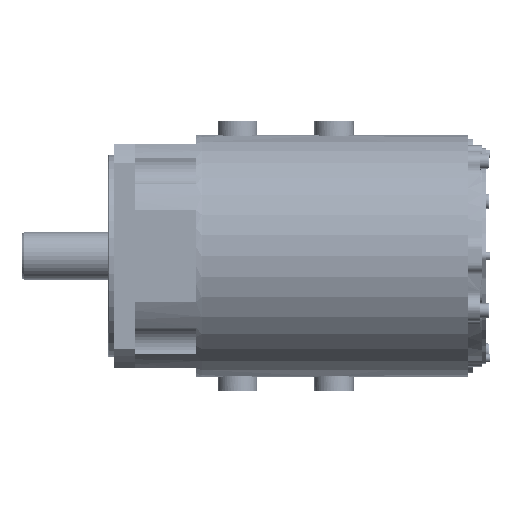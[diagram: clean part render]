
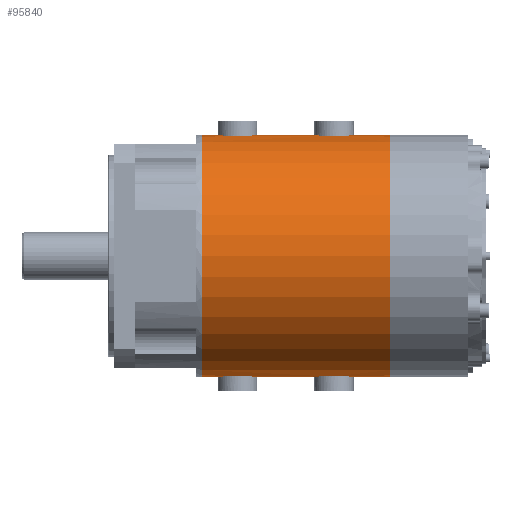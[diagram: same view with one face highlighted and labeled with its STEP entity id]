
A CAD part, front view. The second image highlights one B-rep face of the part: STEP entity #95840.
In plain terms, the highlighted cylindrical face has radius 108 mm (diameter 216 mm), a partial arc.
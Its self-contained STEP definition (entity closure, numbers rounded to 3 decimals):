
#93509=CARTESIAN_POINT('',(120.,0.,108.));
#93510=CARTESIAN_POINT('',(120.,-0.801,108.));
#93511=CARTESIAN_POINT('',(119.817,-2.364,
107.983));
#93512=CARTESIAN_POINT('',(118.944,-4.698,
107.905));
#93513=CARTESIAN_POINT('',(117.552,-6.697,
107.797));
#93514=CARTESIAN_POINT('',(115.777,-8.282,
107.685));
#93515=CARTESIAN_POINT('',(113.577,-9.45,
107.587));
#93516=CARTESIAN_POINT('',(111.175,-10.026,
107.534));
#93517=CARTESIAN_POINT('',(108.819,-10.025,
107.534));
#93518=CARTESIAN_POINT('',(106.42,-9.449,
107.587));
#93519=CARTESIAN_POINT('',(104.216,-8.278,
107.685));
#93520=CARTESIAN_POINT('',(102.436,-6.683,
107.798));
#93521=CARTESIAN_POINT('',(101.054,-4.692,
107.906));
#93522=CARTESIAN_POINT('',(100.183,-2.363,
107.983));
#93523=CARTESIAN_POINT('',(100.,-0.801,108.));
#93524=CARTESIAN_POINT('',(100.,0.,108.));
#93526=CARTESIAN_POINT('',(206.,0.,108.));
#93527=CARTESIAN_POINT('',(206.,-0.801,108.));
#93528=CARTESIAN_POINT('',(205.817,-2.364,
107.983));
#93529=CARTESIAN_POINT('',(204.944,-4.698,
107.905));
#93530=CARTESIAN_POINT('',(203.552,-6.697,
107.797));
#93531=CARTESIAN_POINT('',(201.777,-8.282,
107.685));
#93532=CARTESIAN_POINT('',(199.577,-9.45,
107.587));
#93533=CARTESIAN_POINT('',(197.175,-10.026,
107.534));
#93534=CARTESIAN_POINT('',(194.819,-10.025,
107.534));
#93535=CARTESIAN_POINT('',(192.42,-9.449,
107.587));
#93536=CARTESIAN_POINT('',(190.216,-8.278,
107.685));
#93537=CARTESIAN_POINT('',(188.436,-6.683,
107.798));
#93538=CARTESIAN_POINT('',(187.054,-4.692,
107.906));
#93539=CARTESIAN_POINT('',(186.183,-2.363,
107.983));
#93540=CARTESIAN_POINT('',(186.,-0.801,108.));
#93541=CARTESIAN_POINT('',(186.,0.,108.));
#93543=CARTESIAN_POINT('',(246.,0.,0.));
#93544=DIRECTION('',(1.,0.,0.));
#93545=DIRECTION('',(0.,0.,1.));
#93546=AXIS2_PLACEMENT_3D('',#93543,#93544,#93545);
#93548=DIRECTION('',(-1.,0.,0.));
#93549=VECTOR('',#93548,40.);
#93550=CARTESIAN_POINT('',(246.,0.,-108.));
#93551=LINE('',#93550,#93549);
#93552=CARTESIAN_POINT('',(186.,0.,-108.));
#93553=CARTESIAN_POINT('',(186.,-0.801,-108.));
#93554=CARTESIAN_POINT('',(186.183,-2.363,
-107.983));
#93555=CARTESIAN_POINT('',(187.054,-4.691,
-107.906));
#93556=CARTESIAN_POINT('',(188.436,-6.683,
-107.798));
#93557=CARTESIAN_POINT('',(190.215,-8.277,
-107.685));
#93558=CARTESIAN_POINT('',(192.419,-9.448,
-107.587));
#93559=CARTESIAN_POINT('',(194.818,-10.025,
-107.534));
#93560=CARTESIAN_POINT('',(197.175,-10.026,
-107.534));
#93561=CARTESIAN_POINT('',(199.577,-9.45,
-107.587));
#93562=CARTESIAN_POINT('',(201.777,-8.282,
-107.685));
#93563=CARTESIAN_POINT('',(203.552,-6.697,
-107.797));
#93564=CARTESIAN_POINT('',(204.944,-4.698,
-107.905));
#93565=CARTESIAN_POINT('',(205.817,-2.364,
-107.983));
#93566=CARTESIAN_POINT('',(206.,-0.801,-108.));
#93567=CARTESIAN_POINT('',(206.,0.,-108.));
#93569=DIRECTION('',(-1.,0.,0.));
#93570=VECTOR('',#93569,66.);
#93571=CARTESIAN_POINT('',(186.,0.,-108.));
#93572=LINE('',#93571,#93570);
#93573=CARTESIAN_POINT('',(100.,0.,-108.));
#93574=CARTESIAN_POINT('',(100.,-0.801,-108.));
#93575=CARTESIAN_POINT('',(100.183,-2.363,
-107.983));
#93576=CARTESIAN_POINT('',(101.054,-4.691,
-107.906));
#93577=CARTESIAN_POINT('',(102.436,-6.683,
-107.798));
#93578=CARTESIAN_POINT('',(104.215,-8.277,
-107.685));
#93579=CARTESIAN_POINT('',(106.419,-9.448,
-107.587));
#93580=CARTESIAN_POINT('',(108.818,-10.025,
-107.534));
#93581=CARTESIAN_POINT('',(111.175,-10.026,
-107.534));
#93582=CARTESIAN_POINT('',(113.577,-9.45,
-107.587));
#93583=CARTESIAN_POINT('',(115.777,-8.282,
-107.685));
#93584=CARTESIAN_POINT('',(117.552,-6.697,
-107.797));
#93585=CARTESIAN_POINT('',(118.944,-4.698,
-107.905));
#93586=CARTESIAN_POINT('',(119.817,-2.364,
-107.983));
#93587=CARTESIAN_POINT('',(120.,-0.801,-108.));
#93588=CARTESIAN_POINT('',(120.,0.,-108.));
#93590=DIRECTION('',(-1.,0.,0.));
#93591=VECTOR('',#93590,22.);
#93592=CARTESIAN_POINT('',(100.,0.,-108.));
#93593=LINE('',#93592,#93591);
#93594=CARTESIAN_POINT('',(78.,0.,0.));
#93595=DIRECTION('',(-1.,0.,0.));
#93596=DIRECTION('',(0.,0.,-1.));
#93597=AXIS2_PLACEMENT_3D('',#93594,#93595,#93596);
#95466=DIRECTION('',(-1.,0.,0.));
#95467=VECTOR('',#95466,22.);
#95468=CARTESIAN_POINT('',(100.,0.,108.));
#95469=LINE('',#95468,#95467);
#95514=DIRECTION('',(-1.,0.,0.));
#95515=VECTOR('',#95514,40.);
#95516=CARTESIAN_POINT('',(246.,0.,108.));
#95517=LINE('',#95516,#95515);
#95535=DIRECTION('',(-1.,0.,0.));
#95536=VECTOR('',#95535,66.);
#95537=CARTESIAN_POINT('',(186.,0.,108.));
#95538=LINE('',#95537,#95536);
#95555=CARTESIAN_POINT('',(246.,0.,-108.));
#95556=CARTESIAN_POINT('',(246.,0.,108.));
#95557=VERTEX_POINT('',#95555);
#95558=VERTEX_POINT('',#95556);
#95559=CARTESIAN_POINT('',(78.,0.,-108.));
#95560=CARTESIAN_POINT('',(78.,0.,108.));
#95561=VERTEX_POINT('',#95559);
#95562=VERTEX_POINT('',#95560);
#95781=VERTEX_POINT('',#93573);
#95782=VERTEX_POINT('',#93588);
#95783=VERTEX_POINT('',#93552);
#95784=VERTEX_POINT('',#93567);
#95789=CARTESIAN_POINT('',(120.,0.,108.));
#95791=VERTEX_POINT('',#95789);
#95793=CARTESIAN_POINT('',(100.,0.,108.));
#95795=VERTEX_POINT('',#95793);
#95797=CARTESIAN_POINT('',(206.,0.,108.));
#95799=VERTEX_POINT('',#95797);
#95801=CARTESIAN_POINT('',(186.,0.,108.));
#95803=VERTEX_POINT('',#95801);
#95809=CARTESIAN_POINT('',(246.,0.,0.));
#95810=DIRECTION('',(-1.,0.,0.));
#95811=DIRECTION('',(0.,0.,-1.));
#95812=AXIS2_PLACEMENT_3D('',#95809,#95810,#95811);
#95813=CYLINDRICAL_SURFACE('',#95812,108.);
#95815=ORIENTED_EDGE('',*,*,#95814,.F.);
#95817=ORIENTED_EDGE('',*,*,#95816,.F.);
#95819=ORIENTED_EDGE('',*,*,#95818,.F.);
#95821=ORIENTED_EDGE('',*,*,#95820,.F.);
#95823=ORIENTED_EDGE('',*,*,#95822,.T.);
#95825=ORIENTED_EDGE('',*,*,#95824,.T.);
#95827=ORIENTED_EDGE('',*,*,#95826,.F.);
#95829=ORIENTED_EDGE('',*,*,#95828,.T.);
#95831=ORIENTED_EDGE('',*,*,#95830,.F.);
#95833=ORIENTED_EDGE('',*,*,#95832,.T.);
#95835=ORIENTED_EDGE('',*,*,#95834,.T.);
#95837=ORIENTED_EDGE('',*,*,#95836,.F.);
#95838=EDGE_LOOP('',(#95815,#95817,#95819,#95821,#95823,#95825,#95827,#95829,
#95831,#95833,#95835,#95837));
#95839=FACE_OUTER_BOUND('',#95838,.F.);
#95840=ADVANCED_FACE('',(#95839),#95813,.T.);
#93525=B_SPLINE_CURVE_WITH_KNOTS('',3,(#93509,#93510,#93511,#93512,#93513,
#93514,#93515,#93516,#93517,#93518,#93519,#93520,#93521,#93522,#93523,#93524),
.UNSPECIFIED.,.F.,.F.,(4,1,1,1,1,1,1,1,1,1,1,1,1,4),(0.,0.077,
0.154,0.231,0.308,0.385,
0.462,0.538,0.615,0.692,
0.769,0.846,0.923,1.),.UNSPECIFIED.);
#93542=B_SPLINE_CURVE_WITH_KNOTS('',3,(#93526,#93527,#93528,#93529,#93530,
#93531,#93532,#93533,#93534,#93535,#93536,#93537,#93538,#93539,#93540,#93541),
.UNSPECIFIED.,.F.,.F.,(4,1,1,1,1,1,1,1,1,1,1,1,1,4),(0.,0.077,
0.154,0.231,0.308,0.385,
0.462,0.538,0.615,0.692,
0.769,0.846,0.923,1.),.UNSPECIFIED.);
#93547=CIRCLE('',#93546,108.);
#93568=B_SPLINE_CURVE_WITH_KNOTS('',3,(#93552,#93553,#93554,#93555,#93556,
#93557,#93558,#93559,#93560,#93561,#93562,#93563,#93564,#93565,#93566,#93567),
.UNSPECIFIED.,.F.,.F.,(4,1,1,1,1,1,1,1,1,1,1,1,1,4),(0.,0.077,
0.154,0.231,0.308,0.385,
0.462,0.538,0.615,0.692,
0.769,0.846,0.923,1.),.UNSPECIFIED.);
#93589=B_SPLINE_CURVE_WITH_KNOTS('',3,(#93573,#93574,#93575,#93576,#93577,
#93578,#93579,#93580,#93581,#93582,#93583,#93584,#93585,#93586,#93587,#93588),
.UNSPECIFIED.,.F.,.F.,(4,1,1,1,1,1,1,1,1,1,1,1,1,4),(0.,0.077,
0.154,0.231,0.308,0.385,
0.462,0.538,0.615,0.692,
0.769,0.846,0.923,1.),.UNSPECIFIED.);
#93598=CIRCLE('',#93597,108.);
#95814=EDGE_CURVE('',#95791,#95795,#93525,.T.);
#95816=EDGE_CURVE('',#95803,#95791,#95538,.T.);
#95818=EDGE_CURVE('',#95799,#95803,#93542,.T.);
#95820=EDGE_CURVE('',#95558,#95799,#95517,.T.);
#95822=EDGE_CURVE('',#95558,#95557,#93547,.T.);
#95824=EDGE_CURVE('',#95557,#95784,#93551,.T.);
#95826=EDGE_CURVE('',#95783,#95784,#93568,.T.);
#95828=EDGE_CURVE('',#95783,#95782,#93572,.T.);
#95830=EDGE_CURVE('',#95781,#95782,#93589,.T.);
#95832=EDGE_CURVE('',#95781,#95561,#93593,.T.);
#95834=EDGE_CURVE('',#95561,#95562,#93598,.T.);
#95836=EDGE_CURVE('',#95795,#95562,#95469,.T.);
